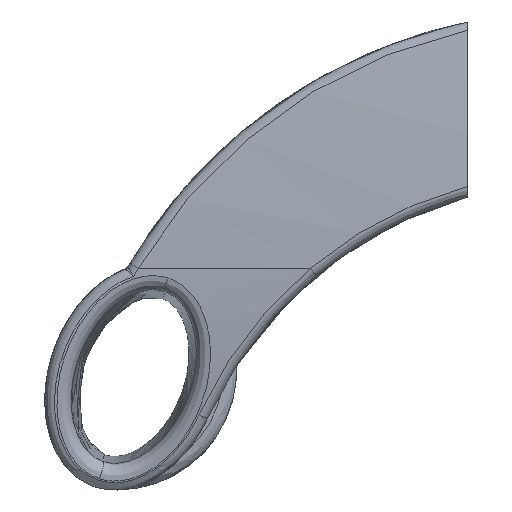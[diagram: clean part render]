
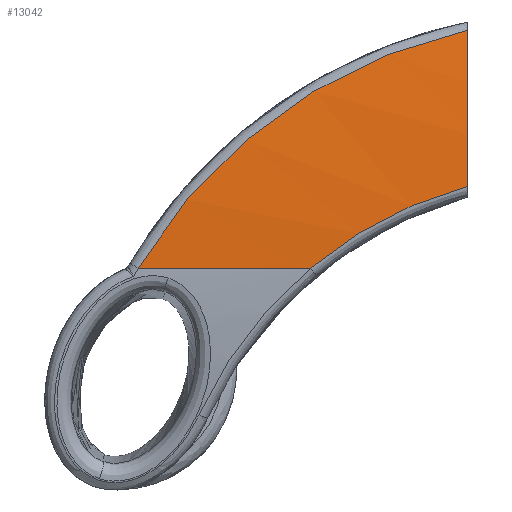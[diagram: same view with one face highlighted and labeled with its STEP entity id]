
A CAD part, left-side view. The second image highlights one B-rep face of the part: STEP entity #13042.
In plain terms, the highlighted cylindrical face has radius 208.036 mm (diameter 416.071 mm), a partial arc.
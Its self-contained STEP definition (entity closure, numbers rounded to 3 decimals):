
#30 = CARTESIAN_POINT ( 'NONE',  ( -66.933, 16.733, -5.564 ) ) ;
#47 = CARTESIAN_POINT ( 'NONE',  ( -66.898, 14.759, -4.395 ) ) ;
#79 = CARTESIAN_POINT ( 'NONE',  ( -66.82, 10.686, -2.271 ) ) ;
#97 = CARTESIAN_POINT ( 'NONE',  ( -66.776, 8.588, -1.317 ) ) ;
#142 = CARTESIAN_POINT ( 'NONE',  ( -66.723, 5.885, -0.263 ) ) ;
#242 = CARTESIAN_POINT ( 'NONE',  ( -66.712, 5.34, -0.059 ) ) ;
#290 = CARTESIAN_POINT ( 'NONE',  ( -66.691, 4.248, 0.333 ) ) ;
#335 = CARTESIAN_POINT ( 'NONE',  ( -66.681, 3.701, 0.521 ) ) ;
#347 = ORIENTED_EDGE ( 'NONE', *, *, #12165, .F. ) ;
#387 = CARTESIAN_POINT ( 'NONE',  ( -66.651, 2.107, 1.044 ) ) ;
#517 = CARTESIAN_POINT ( 'NONE',  ( -66.615, 0., 1.646 ) ) ;
#568 = CARTESIAN_POINT ( 'NONE',  ( -66.633, 1.056, 1.359 ) ) ;
#598 = CARTESIAN_POINT ( 'NONE',  ( -65.441, 26.651, 14.474 ) ) ;
#765 = DIRECTION ( 'NONE',  ( 0., 1., 0. ) ) ;
#780 = LINE ( 'NONE', #5395, #8840 ) ;
#1289 = CARTESIAN_POINT ( 'NONE',  ( -66.615, 0., 1.646 ) ) ;
#1642 = CARTESIAN_POINT ( 'NONE',  ( -66.96, 47.845, -6.366 ) ) ;
#1684 = CARTESIAN_POINT ( 'NONE',  ( -64.887, 19.689, 18.604 ) ) ;
#1697 = CARTESIAN_POINT ( 'NONE',  ( -67., 50.759, -11. ) ) ;
#1772 = CIRCLE ( 'NONE', #3016, 208.036 ) ;
#1818 = EDGE_CURVE ( 'NONE', #4848, #7286, #780, .T. ) ;
#2545 = ORIENTED_EDGE ( 'NONE', *, *, #1818, .F. ) ;
#2716 = CARTESIAN_POINT ( 'NONE',  ( -66.714, 42.884, 0.082 ) ) ;
#2761 = CARTESIAN_POINT ( 'NONE',  ( -64.495, 14.161, 21.191 ) ) ;
#2967 =( BOUNDED_CURVE ( )  B_SPLINE_CURVE ( 3, ( #517, #568, #387, #335, #290, #242, #142, #97, #79, #47, #30, #7205, #13482, #12335 ),
 .UNSPECIFIED., .F., .F. ) 
 B_SPLINE_CURVE_WITH_KNOTS ( ( 4, 2, 2, 2, 2, 2, 4 ),
 ( 0., 0.12, 0.183, 0.246, 0.497, 0.749, 1. ),
 .UNSPECIFIED. ) 
 CURVE ( )  GEOMETRIC_REPRESENTATION_ITEM ( )  RATIONAL_B_SPLINE_CURVE ( ( 1., 1., 1., 1., 1., 1., 1., 1., 1., 1., 1., 1., 1., 1. ) ) 
 REPRESENTATION_ITEM ( '' )  );
#3016 = AXIS2_PLACEMENT_3D ( 'NONE', #10364, #4101, #11422 ) ;
#3381 = VERTEX_POINT ( 'NONE', #1289 ) ;
#3769 = CARTESIAN_POINT ( 'NONE',  ( -66.313, 37.284, 5.987 ) ) ;
#3810 = CARTESIAN_POINT ( 'NONE',  ( -64.37, 12.271, 21.974 ) ) ;
#4101 = DIRECTION ( 'NONE',  ( 0., 1., 0. ) ) ;
#4372 = EDGE_CURVE ( 'NONE', #3381, #4848, #2967, .T. ) ;
#4741 = CARTESIAN_POINT ( 'NONE',  ( -67., 49.357, -8.636 ) ) ;
#4827 = CARTESIAN_POINT ( 'NONE',  ( -66.065, 34.206, 8.705 ) ) ;
#4848 = VERTEX_POINT ( 'NONE', #5824 ) ;
#4880 = CYLINDRICAL_SURFACE ( 'NONE', #10839, 208.036 ) ;
#4882 = CARTESIAN_POINT ( 'NONE',  ( -64.212, 9.719, 22.95 ) ) ;
#5268 = DIRECTION ( 'NONE',  ( 0., 1., 0. ) ) ;
#5395 = CARTESIAN_POINT ( 'NONE',  ( -67., 65.175, -11. ) ) ;
#5824 = CARTESIAN_POINT ( 'NONE',  ( -67., 24.197, -11. ) ) ;
#5872 = FACE_OUTER_BOUND ( 'NONE', #6826, .T. ) ;
#5895 = CARTESIAN_POINT ( 'NONE',  ( -65.936, 32.632, 10.018 ) ) ;
#5938 = CARTESIAN_POINT ( 'NONE',  ( -63.939, 4.787, 24.566 ) ) ;
#6177 = CARTESIAN_POINT ( 'NONE',  ( -63.732, 0., 25.731 ) ) ;
#6826 = EDGE_LOOP ( 'NONE', ( #6943, #347, #2545, #10212 ) ) ;
#6932 = CARTESIAN_POINT ( 'NONE',  ( -65.714, 29.953, 12.11 ) ) ;
#6943 = ORIENTED_EDGE ( 'NONE', *, *, #10315, .T. ) ;
#6972 = CARTESIAN_POINT ( 'NONE',  ( -63.732, 0., 25.731 ) ) ;
#7205 = CARTESIAN_POINT ( 'NONE',  ( -66.984, 20.559, -8.118 ) ) ;
#7286 = VERTEX_POINT ( 'NONE', #8844 ) ;
#7984 = CARTESIAN_POINT ( 'NONE',  ( -65.254, 24.378, 15.931 ) ) ;
#8840 = VECTOR ( 'NONE', #5268, 1000. ) ;
#8844 = CARTESIAN_POINT ( 'NONE',  ( -67., 50.759, -11. ) ) ;
#8979 = CARTESIAN_POINT ( 'NONE',  ( -66.817, 44.609, -2.007 ) ) ;
#9028 = CARTESIAN_POINT ( 'NONE',  ( -64.707, 17.273, 19.821 ) ) ;
#9355 = B_SPLINE_CURVE_WITH_KNOTS ( 'NONE', 3,
 ( #1697, #4741, #1642, #8979, #2716, #10036, #3769, #11097, #4827, #12133, #5895, #13189, #6932, #598, #7984, #1684, #9028, #2761, #10083, #3810, #11144, #4882, #12180, #5938, #13232, #6972 ),
 .UNSPECIFIED., .F., .F.,
 ( 4, 2, 2, 2, 2, 2, 2, 2, 2, 2, 2, 2, 4 ),
 ( 0., 0.126, 0.253, 0.379, 0.411, 0.442, 0.506, 0.632, 0.758, 0.79, 0.821, 0.885, 1. ),
 .UNSPECIFIED. ) ;
#10036 = CARTESIAN_POINT ( 'NONE',  ( -66.462, 39.222, 4.079 ) ) ;
#10083 = CARTESIAN_POINT ( 'NONE',  ( -64.453, 13.534, 21.457 ) ) ;
#10212 = ORIENTED_EDGE ( 'NONE', *, *, #4372, .F. ) ;
#10315 = EDGE_CURVE ( 'NONE', #3381, #11251, #1772, .T. ) ;
#10364 = CARTESIAN_POINT ( 'NONE',  ( 141.036, 0., -11. ) ) ;
#10839 = AXIS2_PLACEMENT_3D ( 'NONE', #12248, #765, #12292 ) ;
#11097 = CARTESIAN_POINT ( 'NONE',  ( -66.107, 34.725, 8.257 ) ) ;
#11144 = CARTESIAN_POINT ( 'NONE',  ( -64.33, 11.634, 22.225 ) ) ;
#11251 = VERTEX_POINT ( 'NONE', #6177 ) ;
#11422 = DIRECTION ( 'NONE',  ( 0., 0., 1. ) ) ;
#12133 = CARTESIAN_POINT ( 'NONE',  ( -65.98, 33.16, 9.585 ) ) ;
#12165 = EDGE_CURVE ( 'NONE', #7286, #11251, #9355, .T. ) ;
#12180 = CARTESIAN_POINT ( 'NONE',  ( -64.137, 8.435, 23.398 ) ) ;
#12248 = CARTESIAN_POINT ( 'NONE',  ( 141.036, 65.175, -11. ) ) ;
#12292 = DIRECTION ( 'NONE',  ( 0., 0., 1. ) ) ;
#12335 = CARTESIAN_POINT ( 'NONE',  ( -67., 24.197, -11. ) ) ;
#13042 = ADVANCED_FACE ( 'NONE', ( #5872 ), #4880, .T. ) ;
#13189 = CARTESIAN_POINT ( 'NONE',  ( -65.804, 31.036, 11.291 ) ) ;
#13232 = CARTESIAN_POINT ( 'NONE',  ( -63.826, 2.406, 25.205 ) ) ;
#13482 = CARTESIAN_POINT ( 'NONE',  ( -67., 22.41, -9.503 ) ) ;
